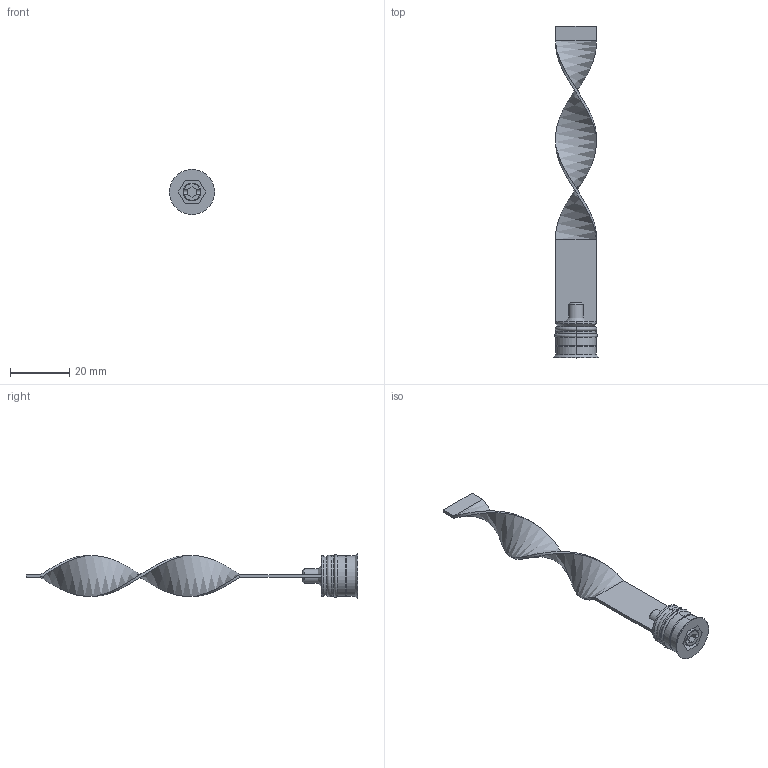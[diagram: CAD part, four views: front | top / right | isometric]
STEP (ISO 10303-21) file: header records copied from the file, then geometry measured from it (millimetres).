
FILE_DESCRIPTION (( 'STEP AP203' ), '1' );
FILE_NAME ('RLS-14Fx100.STEP', '2015-12-09T14:34:43', ( 'Balzi' ), ( '' ), 'SwSTEP 2.0', 'SolidWorks 2015', '' );
FILE_SCHEMA (( 'CONFIG_CONTROL_DESIGN' ));
Length unit declared in the file: millimetre
Products named in the file (1): RLS-14Fx100
Bounding box: 15.3 x 112.5 x 15.3 mm (x, y, z)
Volume: 3234.7 mm3; surface area: 4356.8 mm2
Topology: 1 solids, 1 shells, 80 faces, 187 edges, 113 vertices
Faces by surface type: plane 34, cylinder 17, cone 17, torus 8, bspline 4
Entity records: 3053 total; most frequent: CARTESIAN_POINT 1155, DIRECTION 390, ORIENTED_EDGE 374, EDGE_CURVE 187, AXIS2_PLACEMENT_3D 144, VERTEX_POINT 113, VECTOR 102, LINE 102
